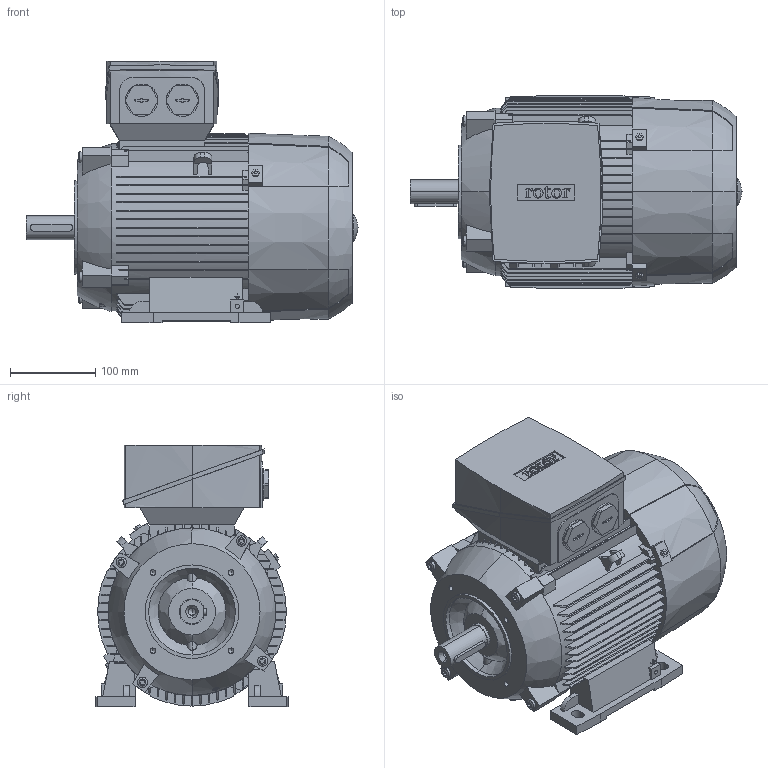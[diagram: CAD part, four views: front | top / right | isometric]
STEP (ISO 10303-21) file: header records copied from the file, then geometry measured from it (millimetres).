
FILE_DESCRIPTION (( 'STEP AP214' ), '1' );
FILE_NAME ('6RN112M06E12 IM2641.STEP', '2016-12-30T09:00:43', ( 'rbc_ict' ), ( 'Microsoft' ), 'SwSTEP 2.0', 'SolidWorks 2015', '' );
FILE_SCHEMA (( 'AUTOMOTIVE_DESIGN' ));
Length unit declared in the file: millimetre
Products named in the file (1): 6RN112M06E12 IM2641
Bounding box: 390.5 x 226 x 308 mm (x, y, z)
Volume: 12812695.2 mm3; surface area: 564863.5 mm2
Topology: 1 solids, 1 shells, 959 faces, 2693 edges, 1772 vertices
Faces by surface type: plane 570, cylinder 177, bspline 168, cone 44
Entity records: 45704 total; most frequent: CARTESIAN_POINT 12830, ORIENTED_EDGE 5362, DIRECTION 4100, EDGE_CURVE 2681, VERTEX_POINT 1772, LINE 1612, VECTOR 1612, AXIS2_PLACEMENT_3D 1244
